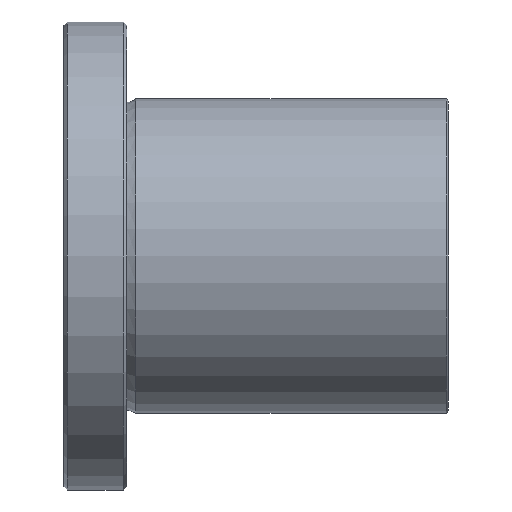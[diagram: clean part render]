
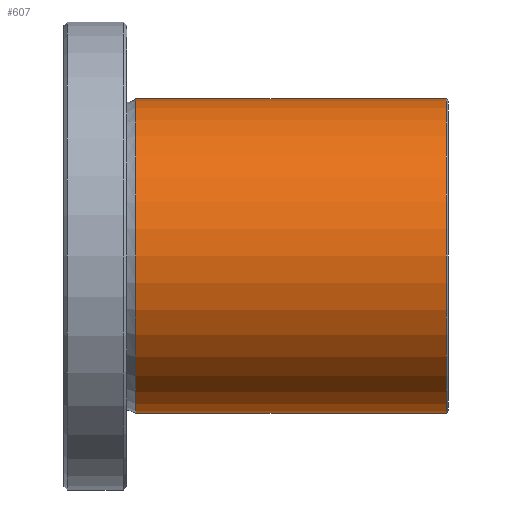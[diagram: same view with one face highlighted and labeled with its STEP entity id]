
A CAD part, front view. The second image highlights one B-rep face of the part: STEP entity #607.
In plain terms, the highlighted cylindrical face has radius 45 mm (diameter 90 mm), a full revolution.
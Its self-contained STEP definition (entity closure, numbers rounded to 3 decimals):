
#573=CARTESIAN_POINT('',(109.527,0.0,45.));
#574=VERTEX_POINT('',#573);
#575=CARTESIAN_POINT('',(109.527,0.0,0.0));
#576=DIRECTION('',(-1.0,0.0,0.0));
#577=DIRECTION('',(0.0,0.0,1.0));
#578=AXIS2_PLACEMENT_3D('',#575,#576,#577);
#579=CIRCLE('',#578,45.);
#580=EDGE_CURVE('',#574,#574,#579,.T.);
#588=CARTESIAN_POINT('',(65.036,0.0,0.0));
#589=DIRECTION('',(-1.0,0.0,0.0));
#590=DIRECTION('',(0.0,0.0,1.0));
#591=AXIS2_PLACEMENT_3D('',#588,#589,#590);
#592=CYLINDRICAL_SURFACE('',#591,45.);
#593=CARTESIAN_POINT('',(20.546,0.0,45.));
#594=VERTEX_POINT('',#593);
#595=CARTESIAN_POINT('',(20.546,0.0,0.0));
#596=DIRECTION('',(-1.0,0.0,0.0));
#597=DIRECTION('',(0.0,0.0,1.0));
#598=AXIS2_PLACEMENT_3D('',#595,#596,#597);
#599=CIRCLE('',#598,45.);
#600=EDGE_CURVE('',#594,#594,#599,.T.);
#601=ORIENTED_EDGE('',*,*,#600,.F.);
#602=EDGE_LOOP('',(#601));
#603=FACE_OUTER_BOUND('',#602,.T.);
#604=ORIENTED_EDGE('',*,*,#580,.T.);
#605=EDGE_LOOP('',(#604));
#606=FACE_BOUND('',#605,.T.);
#607=ADVANCED_FACE('',(#603,#606),#592,.T.);
